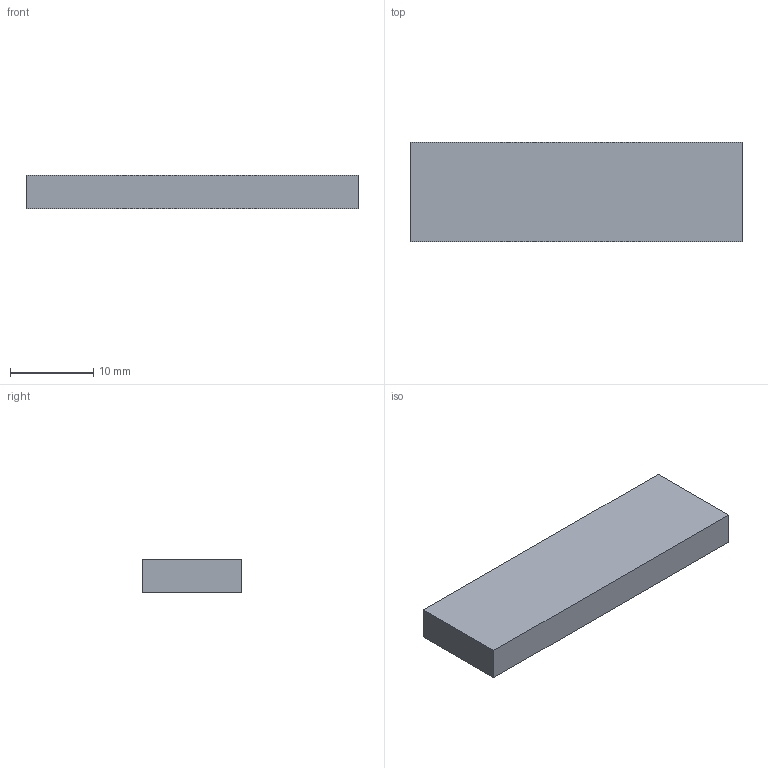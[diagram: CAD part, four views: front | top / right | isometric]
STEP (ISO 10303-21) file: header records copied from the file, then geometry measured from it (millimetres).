
FILE_DESCRIPTION(('STEP AP214'),'1');
FILE_NAME('tmp0.step','2025-04-19T20:56:31',(' '),(' '),'Spatial InterOp 3D',' ',' ');
FILE_SCHEMA(('AUTOMOTIVE_DESIGN { 1 0 10303 214 1 1 1 1 }'));
Length unit declared in the file: millimetre
Products named in the file (1): 1
Bounding box: 40 x 12 x 4 mm (x, y, z)
Volume: 1920 mm3; surface area: 1376 mm2
Topology: 1 solids, 1 shells, 6 faces, 12 edges, 8 vertices
Faces by surface type: plane 6
Entity records: 181 total; most frequent: CARTESIAN_POINT 27, DIRECTION 26, ORIENTED_EDGE 24, EDGE_CURVE 12, LINE 12, VECTOR 12, VERTEX_POINT 8, AXIS2_PLACEMENT_3D 7
